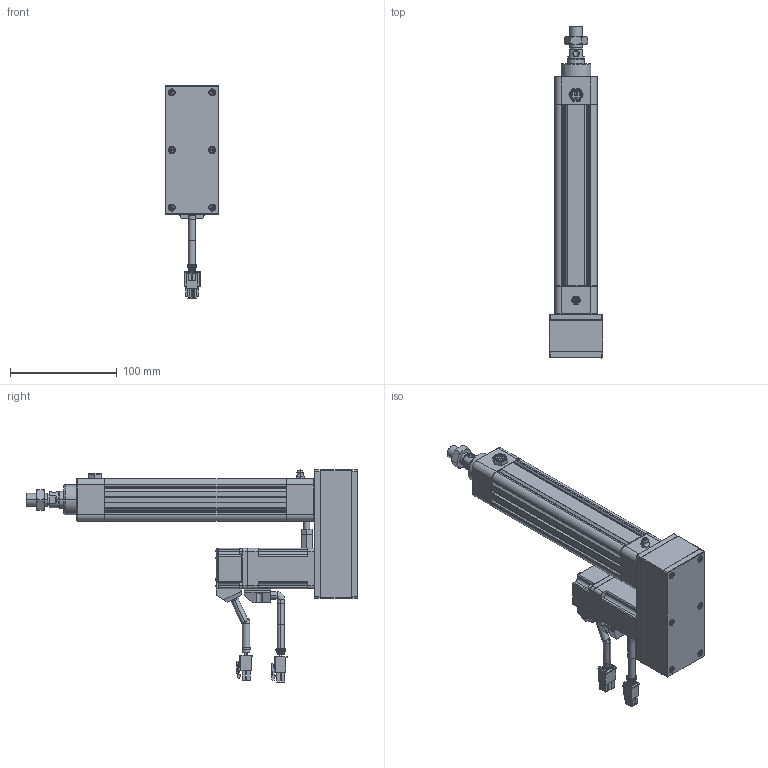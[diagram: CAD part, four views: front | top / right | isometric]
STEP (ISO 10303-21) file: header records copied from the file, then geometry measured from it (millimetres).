
FILE_DESCRIPTION((''),'2;1');
FILE_NAME('HE32-D-100-2-5_ASM','2019-11-20T',('Administrator'),(''),'CREO PARAMETRIC BY PTC INC, 2014190','CREO PARAMETRIC BY PTC INC, 2014190','');
FILE_SCHEMA(('CONFIG_CONTROL_DESIGN'));
Length unit declared in the file: millimetre
Products named in the file (27): HE32-001-X1; HE32-002-X1; HE32-003-X1; 636ZZ; LGLM-M6-22; TF1622-20; HE32-P-011-X1; 1_1_AF0; 2_1; 3_1; 4_1; 5_1; 6_1; 7_1; ASM0001_ASM; M6X25; LM-M6-15; M6; SLM-01; YZ-M6X1; HE32-P-012-X2; HE32-P-014-X1; M3X35; HE32-005-X1; HE32-004-X1; HE32-D-P-008-X1; HE32-D-100-2-5_ASM
Assembly tree (38 placements, depth 3):
  HE32-D-100-2-5_ASM
    HE32-001-X1
    HE32-002-X1
    HE32-003-X1
    636ZZ
    LGLM-M6-22  x8
    TF1622-20
    HE32-P-011-X1
    ASM0001_ASM
      1_1_AF0
      2_1
      3_1
      4_1
      5_1
      6_1
      7_1
    M6X25
    LM-M6-15
    M6
    SLM-01
    YZ-M6X1
    HE32-P-012-X2
    HE32-P-014-X1
    M3X35  x6
    HE32-005-X1
    HE32-004-X1
    HE32-D-P-008-X1
Bounding box: 50 x 311 x 198.7 mm (x, y, z)
Volume: 494398.1 mm3; surface area: 215812.6 mm2
Topology: 37 solids, 64 shells, 2394 faces, 5760 edges, 3565 vertices
Faces by surface type: plane 1062, cylinder 659, cone 583, torus 54, bspline 18, sphere 18
Entity records: 61800 total; most frequent: CARTESIAN_POINT 12363, DIRECTION 10706, ORIENTED_EDGE 9764, EDGE_CURVE 4930, AXIS2_PLACEMENT_3D 3929, VERTEX_POINT 3069, VECTOR 2848, LINE 2848
